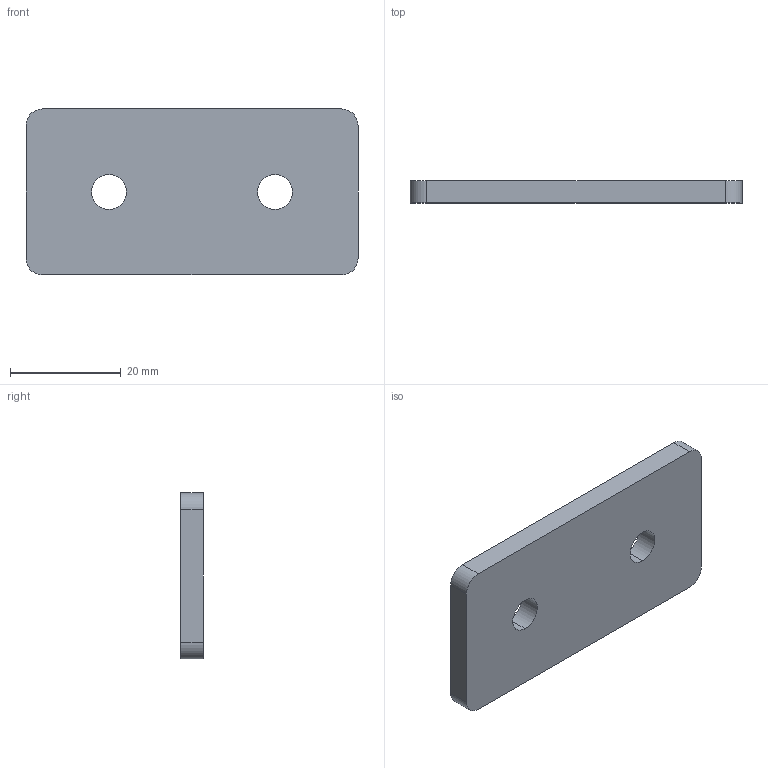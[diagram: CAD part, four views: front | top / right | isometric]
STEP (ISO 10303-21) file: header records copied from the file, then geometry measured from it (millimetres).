
FILE_DESCRIPTION (( 'STEP AP214' ), '1' );
FILE_NAME ('967-30-60-F-2-ZB.step', '2023-06-26T09:08:21', ( '' ), ( '' ), 'SwSTEP 2.0', 'SolidWorks 2022', '' );
FILE_SCHEMA (( 'AUTOMOTIVE_DESIGN' ));
Length unit declared in the file: millimetre
Products named in the file (1): 967-30-60-F-2-ZB
Bounding box: 60 x 4 x 30 mm (x, y, z)
Volume: 6919.7 mm3; surface area: 4317.6 mm2
Topology: 1 solids, 1 shells, 14 faces, 36 edges, 24 vertices
Faces by surface type: cylinder 8, plane 6
Entity records: 478 total; most frequent: DIRECTION 82, CARTESIAN_POINT 75, ORIENTED_EDGE 72, EDGE_CURVE 36, AXIS2_PLACEMENT_3D 31, VERTEX_POINT 24, VECTOR 20, LINE 20
